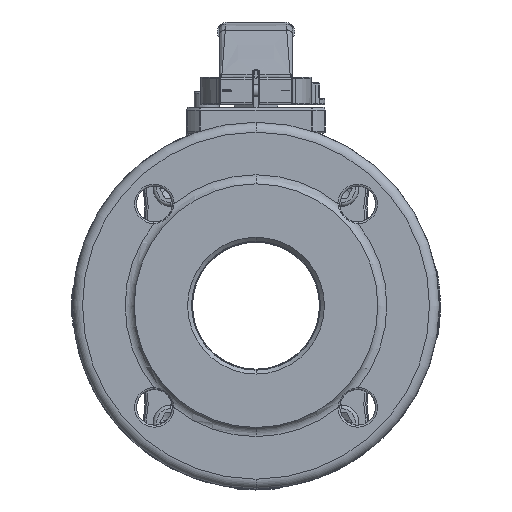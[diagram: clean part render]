
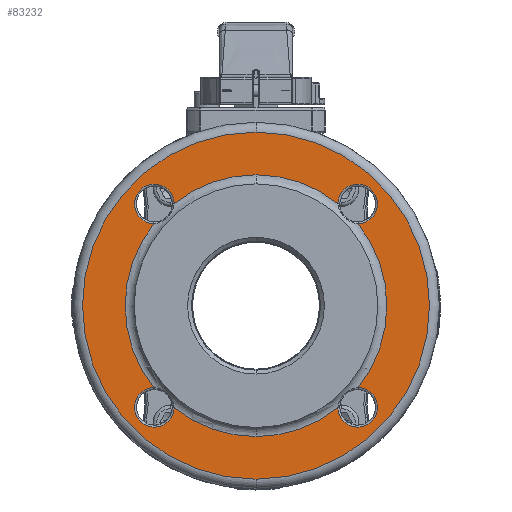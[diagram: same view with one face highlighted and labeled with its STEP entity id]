
A CAD part, left-side view. The second image highlights one B-rep face of the part: STEP entity #83232.
In plain terms, the highlighted planar face has unit normal (-1, 0, 0).
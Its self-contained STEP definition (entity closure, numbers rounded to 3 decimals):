
#21206=CARTESIAN_POINT('',(-62.,0.,0.));
#21207=DIRECTION('',(1.,0.,0.));
#21208=DIRECTION('',(0.,0.,1.));
#21209=AXIS2_PLACEMENT_3D('',#21206,#21207,#21208);
#21221=CARTESIAN_POINT('',(-62.,0.,0.));
#21222=DIRECTION('',(1.,0.,0.));
#21223=DIRECTION('',(0.,0.,-1.));
#21224=AXIS2_PLACEMENT_3D('',#21221,#21222,#21223);
#21239=CARTESIAN_POINT('',(-62.,-51.265,51.265));
#21240=DIRECTION('',(1.,0.,0.));
#21241=DIRECTION('',(0.,1.,0.024));
#21242=AXIS2_PLACEMENT_3D('',#21239,#21240,#21241);
#21259=CARTESIAN_POINT('',(-62.,-51.507,
41.268));
#21348=CARTESIAN_POINT('',(-62.,0.,0.));
#21349=DIRECTION('',(-1.,0.,0.));
#21350=DIRECTION('',(0.,-0.625,0.78));
#21351=AXIS2_PLACEMENT_3D('',#21348,#21349,#21350);
#21353=CARTESIAN_POINT('',(-62.,0.,0.));
#21354=DIRECTION('',(-1.,0.,0.));
#21355=DIRECTION('',(0.,-0.78,-0.625));
#21356=AXIS2_PLACEMENT_3D('',#21353,#21354,#21355);
#21358=CARTESIAN_POINT('',(-62.,0.,0.));
#21359=DIRECTION('',(-1.,0.,0.));
#21360=DIRECTION('',(0.,0.,-1.));
#21361=AXIS2_PLACEMENT_3D('',#21358,#21359,#21360);
#21388=CARTESIAN_POINT('',(-62.,0.,0.));
#21389=DIRECTION('',(-1.,0.,0.));
#21390=DIRECTION('',(0.,0.625,-0.78));
#21391=AXIS2_PLACEMENT_3D('',#21388,#21389,#21390);
#21393=CARTESIAN_POINT('',(-62.,0.,0.));
#21394=DIRECTION('',(-1.,0.,0.));
#21395=DIRECTION('',(0.,0.78,0.625));
#21396=AXIS2_PLACEMENT_3D('',#21393,#21394,#21395);
#21398=CARTESIAN_POINT('',(-62.,0.,0.));
#21399=DIRECTION('',(-1.,0.,0.));
#21400=DIRECTION('',(0.,0.,1.));
#21401=AXIS2_PLACEMENT_3D('',#21398,#21399,#21400);
#21442=CARTESIAN_POINT('',(-62.,51.265,-51.265));
#21443=DIRECTION('',(1.,0.,0.));
#21444=DIRECTION('',(0.,-1.,-0.024));
#21445=AXIS2_PLACEMENT_3D('',#21442,#21443,#21444);
#21451=CARTESIAN_POINT('',(-62.,51.507,
-41.268));
#21613=CARTESIAN_POINT('',(-62.,51.507,
41.268));
#21678=CARTESIAN_POINT('',(-62.,51.265,51.265));
#21679=DIRECTION('',(1.,0.,0.));
#21680=DIRECTION('',(0.,0.024,-1.));
#21681=AXIS2_PLACEMENT_3D('',#21678,#21679,#21680);
#21836=CARTESIAN_POINT('',(-62.,-51.507,
-41.268));
#21901=CARTESIAN_POINT('',(-62.,-51.265,-51.265));
#21902=DIRECTION('',(1.,0.,0.));
#21903=DIRECTION('',(0.,-0.024,1.));
#21904=AXIS2_PLACEMENT_3D('',#21901,#21902,#21903);
#44715=CARTESIAN_POINT('',(-62.,0.,-87.5));
#44716=CARTESIAN_POINT('',(-62.,0.,87.5));
#44717=VERTEX_POINT('',#44715);
#44718=VERTEX_POINT('',#44716);
#46879=VERTEX_POINT('',#21259);
#46888=VERTEX_POINT('',#21613);
#46895=VERTEX_POINT('',#21451);
#46904=VERTEX_POINT('',#21836);
#46943=CARTESIAN_POINT('',(-62.,-41.268,51.507));
#46944=CARTESIAN_POINT('',(-62.,0.,66.));
#46945=VERTEX_POINT('',#46943);
#46946=VERTEX_POINT('',#46944);
#46947=CARTESIAN_POINT('',(-62.,0.,-66.));
#46948=CARTESIAN_POINT('',(-62.,-41.268,-51.507));
#46949=VERTEX_POINT('',#46947);
#46950=VERTEX_POINT('',#46948);
#46951=CARTESIAN_POINT('',(-62.,41.268,-51.507));
#46952=VERTEX_POINT('',#46951);
#46953=CARTESIAN_POINT('',(-62.,41.268,51.507));
#46954=VERTEX_POINT('',#46953);
#83201=CARTESIAN_POINT('',(-62.,0.,0.));
#83202=DIRECTION('',(-1.,0.,0.));
#83203=DIRECTION('',(0.,0.,1.));
#83204=AXIS2_PLACEMENT_3D('',#83201,#83202,#83203);
#83205=PLANE('',#83204);
#83206=ORIENTED_EDGE('',*,*,#83183,.T.);
#83207=ORIENTED_EDGE('',*,*,#83168,.T.);
#83208=EDGE_LOOP('',(#83206,#83207));
#83209=FACE_OUTER_BOUND('',#83208,.F.);
#83211=ORIENTED_EDGE('',*,*,#83210,.F.);
#83213=ORIENTED_EDGE('',*,*,#83212,.T.);
#83215=ORIENTED_EDGE('',*,*,#83214,.T.);
#83217=ORIENTED_EDGE('',*,*,#83216,.F.);
#83219=ORIENTED_EDGE('',*,*,#83218,.T.);
#83221=ORIENTED_EDGE('',*,*,#83220,.F.);
#83223=ORIENTED_EDGE('',*,*,#83222,.T.);
#83225=ORIENTED_EDGE('',*,*,#83224,.T.);
#83227=ORIENTED_EDGE('',*,*,#83226,.F.);
#83229=ORIENTED_EDGE('',*,*,#83228,.T.);
#83230=EDGE_LOOP('',(#83211,#83213,#83215,#83217,#83219,#83221,#83223,#83225,
#83227,#83229));
#83231=FACE_BOUND('',#83230,.F.);
#83232=ADVANCED_FACE('',(#83209,#83231),#83205,.T.);
#21210=CIRCLE('',#21209,87.5);
#21225=CIRCLE('',#21224,87.5);
#21243=CIRCLE('',#21242,10.);
#21352=CIRCLE('',#21351,66.);
#21357=CIRCLE('',#21356,66.);
#21362=CIRCLE('',#21361,66.);
#21392=CIRCLE('',#21391,66.);
#21397=CIRCLE('',#21396,66.);
#21402=CIRCLE('',#21401,66.);
#21446=CIRCLE('',#21445,10.);
#21682=CIRCLE('',#21681,10.);
#21905=CIRCLE('',#21904,10.);
#83168=EDGE_CURVE('',#44718,#44717,#21210,.T.);
#83183=EDGE_CURVE('',#44717,#44718,#21225,.T.);
#83210=EDGE_CURVE('',#46945,#46879,#21243,.T.);
#83212=EDGE_CURVE('',#46945,#46946,#21352,.T.);
#83214=EDGE_CURVE('',#46946,#46954,#21402,.T.);
#83216=EDGE_CURVE('',#46888,#46954,#21682,.T.);
#83218=EDGE_CURVE('',#46888,#46895,#21397,.T.);
#83220=EDGE_CURVE('',#46952,#46895,#21446,.T.);
#83222=EDGE_CURVE('',#46952,#46949,#21392,.T.);
#83224=EDGE_CURVE('',#46949,#46950,#21362,.T.);
#83226=EDGE_CURVE('',#46904,#46950,#21905,.T.);
#83228=EDGE_CURVE('',#46904,#46879,#21357,.T.);
